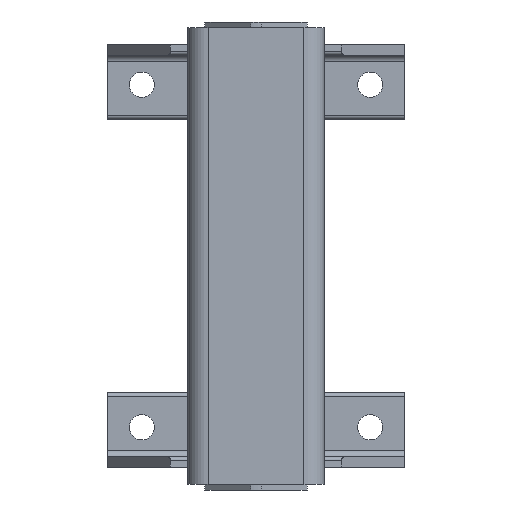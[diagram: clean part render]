
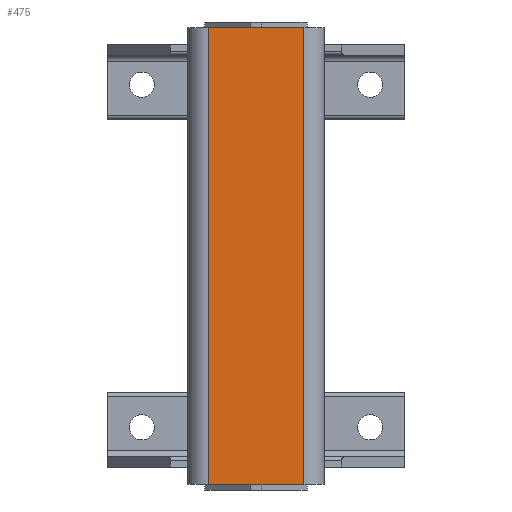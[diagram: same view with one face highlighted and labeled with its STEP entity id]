
A CAD part, left-side view. The second image highlights one B-rep face of the part: STEP entity #475.
In plain terms, the highlighted planar face has unit normal (-1, 0, 0).
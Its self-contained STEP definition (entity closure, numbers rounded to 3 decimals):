
#417=CARTESIAN_POINT('',(-60.,-42.,400.0));
#418=VERTEX_POINT('',#417);
#426=CARTESIAN_POINT('',(-60.,-42.,0.0));
#427=VERTEX_POINT('',#426);
#428=CARTESIAN_POINT('',(-60.,-42.,0.0));
#429=DIRECTION('',(0.0,0.0,1.0));
#430=VECTOR('',#429,400.0);
#431=LINE('',#428,#430);
#432=EDGE_CURVE('',#427,#418,#431,.T.);
#445=CARTESIAN_POINT('',(-60.,-42.,0.0));
#446=DIRECTION('',(-1.0,0.0,0.0));
#447=DIRECTION('',(0.0,0.0,1.0));
#448=AXIS2_PLACEMENT_3D('',#445,#446,#447);
#449=PLANE('',#448);
#450=CARTESIAN_POINT('',(-60.,42.,400.0));
#451=VERTEX_POINT('',#450);
#452=CARTESIAN_POINT('',(-60.,-42.,400.0));
#453=DIRECTION('',(0.0,1.0,0.0));
#454=VECTOR('',#453,84.);
#455=LINE('',#452,#454);
#456=EDGE_CURVE('',#418,#451,#455,.T.);
#457=ORIENTED_EDGE('',*,*,#456,.T.);
#458=CARTESIAN_POINT('',(-60.,42.,0.0));
#459=VERTEX_POINT('',#458);
#460=CARTESIAN_POINT('',(-60.,42.,0.0));
#461=DIRECTION('',(0.0,0.0,1.0));
#462=VECTOR('',#461,400.0);
#463=LINE('',#460,#462);
#464=EDGE_CURVE('',#459,#451,#463,.T.);
#465=ORIENTED_EDGE('',*,*,#464,.F.);
#466=CARTESIAN_POINT('',(-60.,42.,0.0));
#467=DIRECTION('',(0.0,-1.0,0.0));
#468=VECTOR('',#467,84.);
#469=LINE('',#466,#468);
#470=EDGE_CURVE('',#459,#427,#469,.T.);
#471=ORIENTED_EDGE('',*,*,#470,.T.);
#472=ORIENTED_EDGE('',*,*,#432,.T.);
#473=EDGE_LOOP('',(#457,#465,#471,#472));
#474=FACE_OUTER_BOUND('',#473,.T.);
#475=ADVANCED_FACE('',(#474),#449,.T.);
